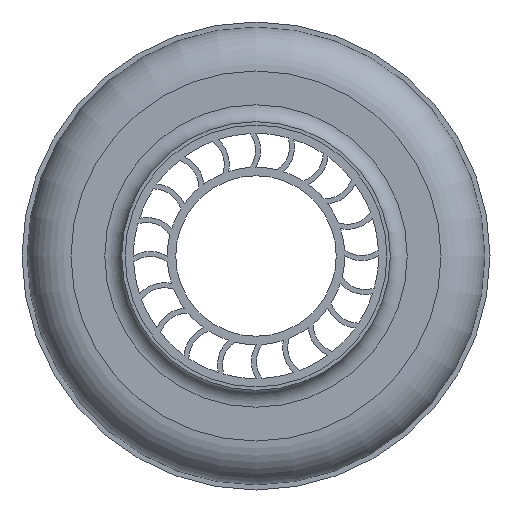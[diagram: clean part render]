
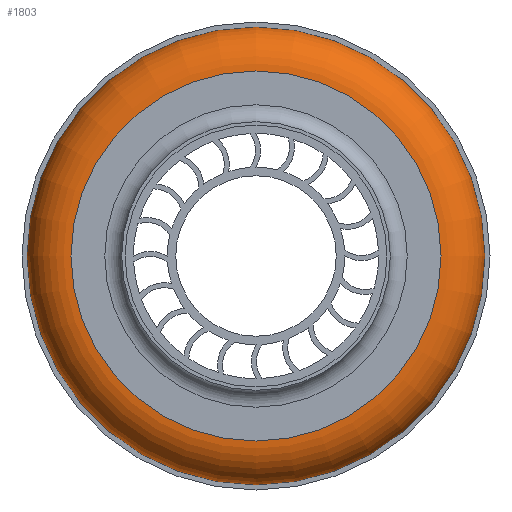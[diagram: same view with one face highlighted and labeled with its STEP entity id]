
A CAD part, left-side view. The second image highlights one B-rep face of the part: STEP entity #1803.
In plain terms, the highlighted toroidal (fillet/blend) face has major radius 109.5 mm and minor radius 26 mm.
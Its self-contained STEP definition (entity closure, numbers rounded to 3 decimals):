
#180=TOROIDAL_SURFACE('',#1926,109.5,26.);
#199=FACE_BOUND('',#378,.T.);
#265=FACE_OUTER_BOUND('',#377,.T.);
#377=EDGE_LOOP('',(#1187));
#378=EDGE_LOOP('',(#1188));
#541=CIRCLE('',#1920,135.5);
#544=CIRCLE('',#1925,109.5);
#727=VERTEX_POINT('',#2883);
#730=VERTEX_POINT('',#2891);
#913=EDGE_CURVE('',#727,#727,#541,.T.);
#916=EDGE_CURVE('',#730,#730,#544,.T.);
#1187=ORIENTED_EDGE('',*,*,#913,.F.);
#1188=ORIENTED_EDGE('',*,*,#916,.T.);
#1803=ADVANCED_FACE('',(#265,#199),#180,.T.);
#1920=AXIS2_PLACEMENT_3D('',#2884,#2222,#2223);
#1925=AXIS2_PLACEMENT_3D('',#2892,#2232,#2233);
#1926=AXIS2_PLACEMENT_3D('',#2893,#2234,#2235);
#2222=DIRECTION('center_axis',(1.,0.,0.));
#2223=DIRECTION('ref_axis',(0.,0.,-1.));
#2232=DIRECTION('center_axis',(1.,0.,0.));
#2233=DIRECTION('ref_axis',(0.,0.,-1.));
#2234=DIRECTION('center_axis',(1.,0.,0.));
#2235=DIRECTION('ref_axis',(0.,0.,-1.));
#2883=CARTESIAN_POINT('',(56.,135.5,0.));
#2884=CARTESIAN_POINT('Origin',(56.,0.,0.));
#2891=CARTESIAN_POINT('',(30.,109.5,0.));
#2892=CARTESIAN_POINT('Origin',(30.,0.,0.));
#2893=CARTESIAN_POINT('Origin',(56.,0.,0.));
